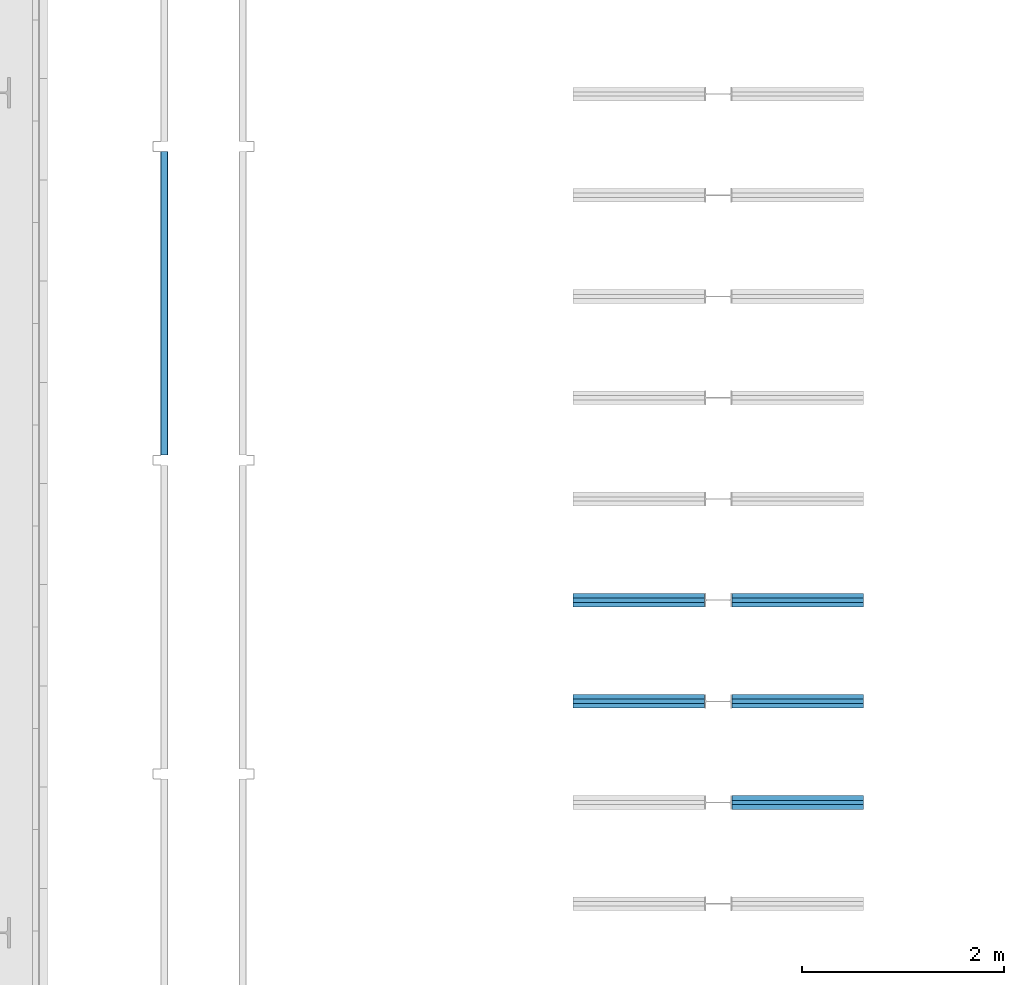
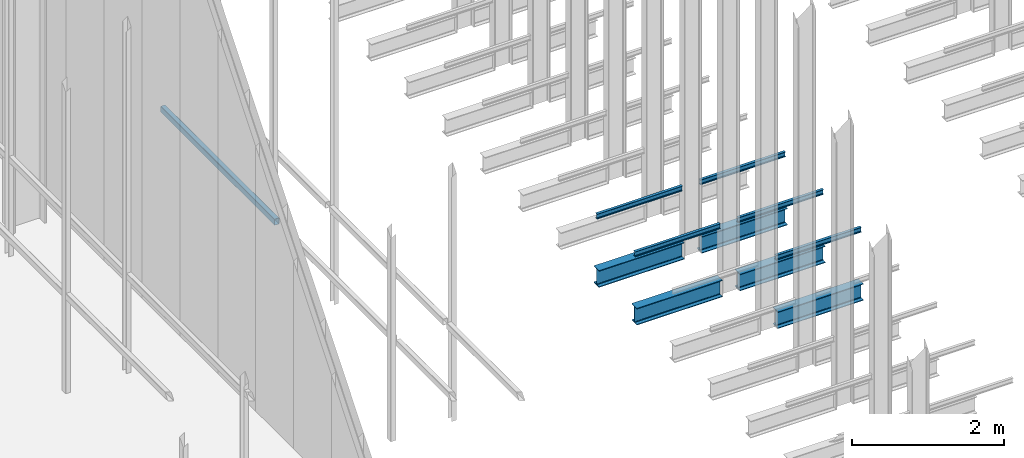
# One storey, part 166 of 302: 11 beams.
"""IFC2X3 building model written with IfcOpenShell, lengths in metres."""

from ifc_helpers import new_model, entity, si_unit, converted_unit, derived_unit, direction, frame, frame_2d, origin, place, context, subcontext, project, spatial, polyline, circle_curve, parameter, trimmed, segment, composite_curve, i_section, outline, extrude, material, type_object, element, save


model = new_model("IFC2X3")

# Units and contexts
model_context = context("Model", 3, precision=1e-05, world=origin(), true_north=direction((6.12303176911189e-17, 1.0)))
body_context = subcontext(model_context, "Body", "Model", "MODEL_VIEW")
ifc_project = project(units=[si_unit("LENGTHUNIT", "METRE"), si_unit("AREAUNIT", "SQUARE_METRE"), si_unit("VOLUMEUNIT", "CUBIC_METRE"), converted_unit("PLANEANGLEUNIT", "DEGREE", entity("IfcRatioMeasure", 0.0174532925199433), si_unit("PLANEANGLEUNIT", "RADIAN"), dimensions=[0, 0, 0, 0, 0, 0, 0]), si_unit("MASSUNIT", "GRAM", prefix="KILO"), derived_unit("MASSDENSITYUNIT", [(si_unit("MASSUNIT", "GRAM", prefix="KILO"), 1), (si_unit("LENGTHUNIT", "METRE"), -3)]), derived_unit("MOMENTOFINERTIAUNIT", [(si_unit("LENGTHUNIT", "METRE"), 4)]), si_unit("TIMEUNIT", "SECOND"), si_unit("FREQUENCYUNIT", "HERTZ"), si_unit("THERMODYNAMICTEMPERATUREUNIT", "DEGREE_CELSIUS"), derived_unit("THERMALTRANSMITTANCEUNIT", [(si_unit("MASSUNIT", "GRAM", prefix="KILO"), 1), (si_unit("THERMODYNAMICTEMPERATUREUNIT", "KELVIN"), -1), (si_unit("TIMEUNIT", "SECOND"), -3)]), derived_unit("VOLUMETRICFLOWRATEUNIT", [(si_unit("LENGTHUNIT", "METRE"), 3), (si_unit("TIMEUNIT", "SECOND"), -1)]), si_unit("ELECTRICCURRENTUNIT", "AMPERE"), si_unit("ELECTRICVOLTAGEUNIT", "VOLT"), si_unit("POWERUNIT", "WATT"), si_unit("FORCEUNIT", "NEWTON", prefix="KILO"), si_unit("ILLUMINANCEUNIT", "LUX"), si_unit("LUMINOUSFLUXUNIT", "LUMEN"), si_unit("LUMINOUSINTENSITYUNIT", "CANDELA"), derived_unit("USERDEFINED", [(si_unit("MASSUNIT", "GRAM", prefix="KILO"), -1), (si_unit("LENGTHUNIT", "METRE"), -2), (si_unit("TIMEUNIT", "SECOND"), 3), (si_unit("LUMINOUSFLUXUNIT", "LUMEN"), 1)]), derived_unit("LINEARVELOCITYUNIT", [(si_unit("LENGTHUNIT", "METRE"), 1), (si_unit("TIMEUNIT", "SECOND"), -1)]), si_unit("PRESSUREUNIT", "PASCAL"), derived_unit("USERDEFINED", [(si_unit("LENGTHUNIT", "METRE"), -2), (si_unit("MASSUNIT", "GRAM", prefix="KILO"), 1), (si_unit("TIMEUNIT", "SECOND"), -2)]), derived_unit("LINEARFORCEUNIT", [(si_unit("MASSUNIT", "GRAM", prefix="KILO"), 1), (si_unit("LENGTHUNIT", "METRE"), 1), (si_unit("TIMEUNIT", "SECOND"), -2), (si_unit("LENGTHUNIT", "METRE"), -1)]), derived_unit("PLANARFORCEUNIT", [(si_unit("MASSUNIT", "GRAM", prefix="KILO"), 1), (si_unit("LENGTHUNIT", "METRE"), 1), (si_unit("TIMEUNIT", "SECOND"), -2), (si_unit("LENGTHUNIT", "METRE"), -2)])], contexts=[model_context])

# Site, building, storey
site_placement = place(None, origin())
site = spatial("IfcSite", under=ifc_project, at=site_placement, Name="Default", CompositionType="ELEMENT")
building_placement = place(site_placement, origin())
building = spatial("IfcBuilding", under=site, at=building_placement, CompositionType="ELEMENT")
storey_placement = place(building_placement, frame((0.0, 0.0, -1.3)))
storey = spatial("IfcBuildingStorey", under=building, at=storey_placement, Name="00_EG", CompositionType="ELEMENT", Elevation=-1.3)

# Beams
ifc_material_1 = material(Name="Metall - Baustahl S235 blau")
beam_type_1 = type_object("IfcBeamType", Name="RHS Träger (EN 10219-2):RHS 100 x 75 x 5", PredefinedType="NOTDEFINED")
beam_1_placement = place(storey_placement, frame((-176.155111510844, 36.448088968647, 2.885), z_axis=(0.0, 0.0, 1.0), x_axis=(0.0, 1.0, 0.0)))
element("IfcBeam", 1, at=beam_1_placement, inside=storey, type_object=beam_type_1, material=ifc_material_1, Name="RHS Träger (EN 10219-2):RHS 100 x 75 x 5", ObjectType="RHS Träger (EN 10219-2):RHS 100 x 75 x 5", context=body_context, shape_type="SweptSolid", body=[
    extrude(outline(composite_curve([segment(polyline([(-0.0399999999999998, -0.0374999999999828), (0.0400000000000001, -0.0374999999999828)]), True, "CONTINUOUS"), segment(trimmed(circle_curve(frame_2d((0.0399999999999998, -0.0274999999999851), x_axis=(0.0, 1.0)), 0.01), [parameter(180.0)], [parameter(270.0)], True, "PARAMETER"), True, "CONTINUOUS"), segment(polyline([(0.05, -0.0274999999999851), (0.05, 0.0274999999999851)]), True, "CONTINUOUS"), segment(trimmed(circle_curve(frame_2d((0.0399999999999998, 0.0274999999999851), x_axis=(0.0, 1.0)), 0.01), [parameter(270.0)], [parameter(4.07110999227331e-13)], True, "PARAMETER"), True, "CONTINUOUS"), segment(polyline([(0.0400000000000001, 0.0375000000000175), (-0.0399999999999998, 0.0375000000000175)]), True, "CONTINUOUS"), segment(trimmed(circle_curve(frame_2d((-0.0400000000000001, 0.0274999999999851), x_axis=(0.0, 1.0)), 0.01), [parameter(360.0)], [parameter(90.0000000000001)], True, "PARAMETER"), True, "CONTINUOUS"), segment(polyline([(-0.05, 0.0274999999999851), (-0.05, -0.0274999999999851)]), True, "CONTINUOUS"), segment(trimmed(circle_curve(frame_2d((-0.0400000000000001, -0.0274999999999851), x_axis=(0.0, 1.0)), 0.01), [parameter(90.0000000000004)], [parameter(180.0)], True, "PARAMETER"), True, "CONTINUOUS")], self_intersect=False), holes=[composite_curve([segment(trimmed(circle_curve(frame_2d((-0.0400000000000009, 0.0274999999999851), x_axis=(0.0, 1.0)), 0.005), [parameter(360.0)], [parameter(89.9999999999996)], True, "PARAMETER"), False, "CONTINUOUS"), segment(polyline([(-0.0400000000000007, 0.0325000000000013), (0.0399999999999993, 0.0325000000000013)]), True, "CONTINUOUS"), segment(trimmed(circle_curve(frame_2d((0.039999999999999, 0.0274999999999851), x_axis=(0.0, 1.0)), 0.005), [parameter(270.0)], [parameter(0.0)], True, "PARAMETER"), False, "CONTINUOUS"), segment(polyline([(0.0449999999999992, 0.0274999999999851), (0.0449999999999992, -0.0274999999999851)]), True, "CONTINUOUS"), segment(trimmed(circle_curve(frame_2d((0.039999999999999, -0.0274999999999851), x_axis=(0.0, 1.0)), 0.005), [parameter(180.0)], [parameter(269.999999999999)], True, "PARAMETER"), False, "CONTINUOUS"), segment(polyline([(0.0399999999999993, -0.0325000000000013), (-0.0400000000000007, -0.0325000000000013)]), True, "CONTINUOUS"), segment(trimmed(circle_curve(frame_2d((-0.0400000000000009, -0.0274999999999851), x_axis=(0.0, 1.0)), 0.005), [parameter(90.0000000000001)], [parameter(180.0)], True, "PARAMETER"), False, "CONTINUOUS"), segment(polyline([(-0.0450000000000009, -0.0274999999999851), (-0.0450000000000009, 0.0274999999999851)]), True, "CONTINUOUS")], self_intersect=False)]), frame((9.99999999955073e-05, -0.0375000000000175, -0.0500000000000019), z_axis=(1.0, 0.0, 0.0), x_axis=(0.0, 0.0, -1.0)), (0.0, 0.0, 1.0), 2.9998),
])
ifc_material_2 = material(Name="Metall - Baustahl S235")
beam_type_2 = type_object("IfcBeamType", Name="IPN Träger:IPN 80", PredefinedType="NOTDEFINED")
beam_2_placement = place(storey_placement, frame((-170.510111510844, 34.994588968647, 2.42)))
element("IfcBeam", 2, at=beam_2_placement, inside=storey, type_object=beam_type_2, material=ifc_material_2, Name="IPN Träger:IPN 80", ObjectType="IPN Träger:IPN 80", context=body_context, shape_type="SweptSolid", body=[
    extrude(outline(composite_curve([segment(polyline([(0.0375704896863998, -0.0210000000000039), (0.0399999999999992, -0.0210000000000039)]), True, "CONTINUOUS"), segment(polyline([(0.0399999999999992, -0.0210000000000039), (0.0399999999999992, 0.0209999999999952)]), True, "CONTINUOUS"), segment(polyline([(0.039999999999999, 0.0209999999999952), (0.037570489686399, 0.0209999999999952)]), True, "CONTINUOUS"), segment(trimmed(circle_curve(frame_2d((0.037570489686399, 0.0186999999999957), x_axis=(0.0, 1.0)), 0.00230000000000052), [parameter(0.0)], [parameter(82.0299999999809)], True, "PARAMETER"), True, "CONTINUOUS"), segment(polyline([(0.0352927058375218, 0.0190189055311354), (0.0333732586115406, 0.00530924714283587)]), True, "CONTINUOUS"), segment(trimmed(circle_curve(frame_2d((0.0295109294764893, 0.00584999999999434), x_axis=(0.990340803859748, -0.138654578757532)), 0.00389999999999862), [parameter(277.969999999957)], [parameter(0.0)], True, "PARAMETER"), False, "CONTINUOUS"), segment(polyline([(0.0295109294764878, 0.00194999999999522), (-0.0295109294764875, 0.00194999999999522)]), True, "CONTINUOUS"), segment(trimmed(circle_curve(frame_2d((-0.029510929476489, 0.00584999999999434), x_axis=(0.0, -1.0)), 0.00389999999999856), [parameter(277.969999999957)], [parameter(0.0)], True, "PARAMETER"), False, "CONTINUOUS"), segment(polyline([(-0.0333732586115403, 0.0053092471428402), (-0.0352927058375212, 0.0190189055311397)]), True, "CONTINUOUS"), segment(trimmed(circle_curve(frame_2d((-0.0375704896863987, 0.0186999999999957), x_axis=(0.990340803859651, 0.138654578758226)), 0.00230000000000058), [parameter(0.0)], [parameter(82.029999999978)], True, "PARAMETER"), True, "CONTINUOUS"), segment(polyline([(-0.0375704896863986, 0.0209999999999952), (-0.0400000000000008, 0.0209999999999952)]), True, "CONTINUOUS"), segment(polyline([(-0.0400000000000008, 0.0209999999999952), (-0.0400000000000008, -0.0210000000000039)]), True, "CONTINUOUS"), segment(polyline([(-0.0400000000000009, -0.0210000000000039), (-0.037570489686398, -0.0210000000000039)]), True, "CONTINUOUS"), segment(trimmed(circle_curve(frame_2d((-0.0375704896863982, -0.0187000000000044), x_axis=(0.0, -1.0)), 0.00230000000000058), [parameter(0.0)], [parameter(82.029999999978)], True, "PARAMETER"), True, "CONTINUOUS"), segment(polyline([(-0.0352927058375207, -0.019018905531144), (-0.0333732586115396, -0.00530924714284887)]), True, "CONTINUOUS"), segment(trimmed(circle_curve(frame_2d((-0.0295109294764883, -0.005850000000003), x_axis=(-0.990340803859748, 0.138654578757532)), 0.00389999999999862), [parameter(277.969999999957)], [parameter(0.0)], True, "PARAMETER"), False, "CONTINUOUS"), segment(polyline([(-0.0295109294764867, -0.00195000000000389), (0.0295109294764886, -0.00195000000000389)]), True, "CONTINUOUS"), segment(trimmed(circle_curve(frame_2d((0.0295109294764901, -0.005850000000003), x_axis=(0.0, 1.0)), 0.00389999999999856), [parameter(277.969999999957)], [parameter(0.0)], True, "PARAMETER"), False, "CONTINUOUS"), segment(polyline([(0.0333732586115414, -0.00530924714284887), (0.0352927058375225, -0.0190189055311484)]), True, "CONTINUOUS"), segment(trimmed(circle_curve(frame_2d((0.0375704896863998, -0.0187000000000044), x_axis=(-0.990340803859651, -0.138654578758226)), 0.00230000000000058), [parameter(0.0)], [parameter(82.029999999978)], True, "PARAMETER"), True, "CONTINUOUS")], self_intersect=False)), frame((0.000100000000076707, 0.0210000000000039, -0.0400000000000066), z_axis=(1.0, 0.0, 0.0), x_axis=(0.0, 0.0, -1.0)), (0.0, 0.0, 1.0), 1.29990000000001),
])
beam_3_placement = place(storey_placement, frame((-170.780111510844, 35.036588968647, 2.42), z_axis=(0.0, 0.0, 1.0), x_axis=(-1.0, 0.0, 0.0)))
element("IfcBeam", 3, at=beam_3_placement, inside=storey, type_object=beam_type_2, material=ifc_material_2, Name="IPN Träger:IPN 80", ObjectType="IPN Träger:IPN 80", context=body_context, shape_type="SweptSolid", body=[
    extrude(outline(composite_curve([segment(polyline([(0.0375704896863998, -0.0209999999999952), (0.0399999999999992, -0.0209999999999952)]), True, "CONTINUOUS"), segment(polyline([(0.0399999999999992, -0.0209999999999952), (0.0399999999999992, 0.0210000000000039)]), True, "CONTINUOUS"), segment(polyline([(0.039999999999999, 0.0210000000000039), (0.037570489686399, 0.0210000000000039)]), True, "CONTINUOUS"), segment(trimmed(circle_curve(frame_2d((0.037570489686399, 0.0187000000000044), x_axis=(0.0, 1.0)), 0.00230000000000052), [parameter(0.0)], [parameter(82.0299999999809)], True, "PARAMETER"), True, "CONTINUOUS"), segment(polyline([(0.0352927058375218, 0.019018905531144), (0.0333732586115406, 0.00530924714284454)]), True, "CONTINUOUS"), segment(trimmed(circle_curve(frame_2d((0.0295109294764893, 0.005850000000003), x_axis=(0.990340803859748, -0.138654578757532)), 0.00389999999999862), [parameter(277.969999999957)], [parameter(0.0)], True, "PARAMETER"), False, "CONTINUOUS"), segment(polyline([(0.0295109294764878, 0.00195000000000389), (-0.0295109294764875, 0.00195000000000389)]), True, "CONTINUOUS"), segment(trimmed(circle_curve(frame_2d((-0.029510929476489, 0.005850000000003), x_axis=(0.0, -1.0)), 0.00389999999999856), [parameter(277.969999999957)], [parameter(0.0)], True, "PARAMETER"), False, "CONTINUOUS"), segment(polyline([(-0.0333732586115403, 0.00530924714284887), (-0.0352927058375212, 0.0190189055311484)]), True, "CONTINUOUS"), segment(trimmed(circle_curve(frame_2d((-0.0375704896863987, 0.0187000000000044), x_axis=(0.990340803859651, 0.138654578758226)), 0.00230000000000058), [parameter(0.0)], [parameter(82.029999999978)], True, "PARAMETER"), True, "CONTINUOUS"), segment(polyline([(-0.0375704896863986, 0.0210000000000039), (-0.0400000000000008, 0.0210000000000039)]), True, "CONTINUOUS"), segment(polyline([(-0.0400000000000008, 0.0210000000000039), (-0.0400000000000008, -0.0209999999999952)]), True, "CONTINUOUS"), segment(polyline([(-0.0400000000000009, -0.0209999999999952), (-0.037570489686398, -0.0209999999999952)]), True, "CONTINUOUS"), segment(trimmed(circle_curve(frame_2d((-0.0375704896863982, -0.0186999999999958), x_axis=(0.0, -1.0)), 0.00230000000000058), [parameter(0.0)], [parameter(82.029999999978)], True, "PARAMETER"), True, "CONTINUOUS"), segment(polyline([(-0.0352927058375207, -0.0190189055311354), (-0.0333732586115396, -0.00530924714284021)]), True, "CONTINUOUS"), segment(trimmed(circle_curve(frame_2d((-0.0295109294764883, -0.00584999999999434), x_axis=(-0.990340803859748, 0.138654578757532)), 0.00389999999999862), [parameter(277.969999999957)], [parameter(0.0)], True, "PARAMETER"), False, "CONTINUOUS"), segment(polyline([(-0.0295109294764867, -0.00194999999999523), (0.0295109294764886, -0.00194999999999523)]), True, "CONTINUOUS"), segment(trimmed(circle_curve(frame_2d((0.0295109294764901, -0.00584999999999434), x_axis=(0.0, 1.0)), 0.00389999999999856), [parameter(277.969999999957)], [parameter(0.0)], True, "PARAMETER"), False, "CONTINUOUS"), segment(polyline([(0.0333732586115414, -0.00530924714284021), (0.0352927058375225, -0.0190189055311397)]), True, "CONTINUOUS"), segment(trimmed(circle_curve(frame_2d((0.0375704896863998, -0.0186999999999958), x_axis=(-0.990340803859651, -0.138654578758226)), 0.00230000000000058), [parameter(0.0)], [parameter(82.029999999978)], True, "PARAMETER"), True, "CONTINUOUS")], self_intersect=False)), frame((0.000100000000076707, 0.0209999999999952, -0.0400000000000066), z_axis=(1.0, 0.0, 0.0), x_axis=(0.0, 0.0, -1.0)), (0.0, 0.0, 1.0), 1.29990000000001),
])
beam_4_placement = place(storey_placement, frame((-170.510111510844, 33.994588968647, 2.42)))
element("IfcBeam", 4, at=beam_4_placement, inside=storey, type_object=beam_type_2, material=ifc_material_2, Name="IPN Träger:IPN 80", ObjectType="IPN Träger:IPN 80", context=body_context, shape_type="SweptSolid", body=[
    extrude(outline(composite_curve([segment(polyline([(0.0375704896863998, -0.0209999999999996), (0.0399999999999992, -0.0209999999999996)]), True, "CONTINUOUS"), segment(polyline([(0.0399999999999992, -0.0209999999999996), (0.0399999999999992, 0.0209999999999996)]), True, "CONTINUOUS"), segment(polyline([(0.039999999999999, 0.0209999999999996), (0.037570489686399, 0.0209999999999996)]), True, "CONTINUOUS"), segment(trimmed(circle_curve(frame_2d((0.037570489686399, 0.0187000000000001), x_axis=(0.0, 1.0)), 0.00230000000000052), [parameter(0.0)], [parameter(82.0299999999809)], True, "PARAMETER"), True, "CONTINUOUS"), segment(polyline([(0.0352927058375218, 0.0190189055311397), (0.0333732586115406, 0.00530924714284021)]), True, "CONTINUOUS"), segment(trimmed(circle_curve(frame_2d((0.0295109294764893, 0.00584999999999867), x_axis=(0.990340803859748, -0.138654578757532)), 0.00389999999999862), [parameter(277.969999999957)], [parameter(0.0)], True, "PARAMETER"), False, "CONTINUOUS"), segment(polyline([(0.0295109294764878, 0.00194999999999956), (-0.0295109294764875, 0.00194999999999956)]), True, "CONTINUOUS"), segment(trimmed(circle_curve(frame_2d((-0.029510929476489, 0.00584999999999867), x_axis=(0.0, -1.0)), 0.00389999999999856), [parameter(277.969999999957)], [parameter(0.0)], True, "PARAMETER"), False, "CONTINUOUS"), segment(polyline([(-0.0333732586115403, 0.00530924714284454), (-0.0352927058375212, 0.019018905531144)]), True, "CONTINUOUS"), segment(trimmed(circle_curve(frame_2d((-0.0375704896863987, 0.0187000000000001), x_axis=(0.990340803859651, 0.138654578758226)), 0.00230000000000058), [parameter(0.0)], [parameter(82.029999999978)], True, "PARAMETER"), True, "CONTINUOUS"), segment(polyline([(-0.0375704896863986, 0.0209999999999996), (-0.0400000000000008, 0.0209999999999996)]), True, "CONTINUOUS"), segment(polyline([(-0.0400000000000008, 0.0209999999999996), (-0.0400000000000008, -0.0209999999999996)]), True, "CONTINUOUS"), segment(polyline([(-0.0400000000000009, -0.0209999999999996), (-0.037570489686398, -0.0209999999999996)]), True, "CONTINUOUS"), segment(trimmed(circle_curve(frame_2d((-0.0375704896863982, -0.0187000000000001), x_axis=(0.0, -1.0)), 0.00230000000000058), [parameter(0.0)], [parameter(82.029999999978)], True, "PARAMETER"), True, "CONTINUOUS"), segment(polyline([(-0.0352927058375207, -0.0190189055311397), (-0.0333732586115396, -0.00530924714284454)]), True, "CONTINUOUS"), segment(trimmed(circle_curve(frame_2d((-0.0295109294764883, -0.00584999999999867), x_axis=(-0.990340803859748, 0.138654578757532)), 0.00389999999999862), [parameter(277.969999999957)], [parameter(0.0)], True, "PARAMETER"), False, "CONTINUOUS"), segment(polyline([(-0.0295109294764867, -0.00194999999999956), (0.0295109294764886, -0.00194999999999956)]), True, "CONTINUOUS"), segment(trimmed(circle_curve(frame_2d((0.0295109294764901, -0.00584999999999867), x_axis=(0.0, 1.0)), 0.00389999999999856), [parameter(277.969999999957)], [parameter(0.0)], True, "PARAMETER"), False, "CONTINUOUS"), segment(polyline([(0.0333732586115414, -0.00530924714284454), (0.0352927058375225, -0.019018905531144)]), True, "CONTINUOUS"), segment(trimmed(circle_curve(frame_2d((0.0375704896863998, -0.0187000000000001), x_axis=(-0.990340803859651, -0.138654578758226)), 0.00230000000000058), [parameter(0.0)], [parameter(82.029999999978)], True, "PARAMETER"), True, "CONTINUOUS")], self_intersect=False)), frame((0.000100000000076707, 0.0209999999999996, -0.0400000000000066), z_axis=(1.0, 0.0, 0.0), x_axis=(0.0, 0.0, -1.0)), (0.0, 0.0, 1.0), 1.29990000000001),
])
beam_5_placement = place(storey_placement, frame((-170.780111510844, 34.036588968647, 2.42), z_axis=(0.0, 0.0, 1.0), x_axis=(-1.0, 0.0, 0.0)))
element("IfcBeam", 5, at=beam_5_placement, inside=storey, type_object=beam_type_2, material=ifc_material_2, Name="IPN Träger:IPN 80", ObjectType="IPN Träger:IPN 80", context=body_context, shape_type="SweptSolid", body=[
    extrude(outline(composite_curve([segment(polyline([(0.0375704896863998, -0.0209999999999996), (0.0399999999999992, -0.0209999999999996)]), True, "CONTINUOUS"), segment(polyline([(0.0399999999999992, -0.0209999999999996), (0.0399999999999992, 0.0209999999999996)]), True, "CONTINUOUS"), segment(polyline([(0.039999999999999, 0.0209999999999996), (0.037570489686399, 0.0209999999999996)]), True, "CONTINUOUS"), segment(trimmed(circle_curve(frame_2d((0.037570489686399, 0.0187000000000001), x_axis=(0.0, 1.0)), 0.00230000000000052), [parameter(0.0)], [parameter(82.0299999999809)], True, "PARAMETER"), True, "CONTINUOUS"), segment(polyline([(0.0352927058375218, 0.0190189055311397), (0.0333732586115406, 0.00530924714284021)]), True, "CONTINUOUS"), segment(trimmed(circle_curve(frame_2d((0.0295109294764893, 0.00584999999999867), x_axis=(0.990340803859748, -0.138654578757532)), 0.00389999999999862), [parameter(277.969999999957)], [parameter(0.0)], True, "PARAMETER"), False, "CONTINUOUS"), segment(polyline([(0.0295109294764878, 0.00194999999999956), (-0.0295109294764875, 0.00194999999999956)]), True, "CONTINUOUS"), segment(trimmed(circle_curve(frame_2d((-0.029510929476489, 0.00584999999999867), x_axis=(0.0, -1.0)), 0.00389999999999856), [parameter(277.969999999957)], [parameter(0.0)], True, "PARAMETER"), False, "CONTINUOUS"), segment(polyline([(-0.0333732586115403, 0.00530924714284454), (-0.0352927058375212, 0.019018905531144)]), True, "CONTINUOUS"), segment(trimmed(circle_curve(frame_2d((-0.0375704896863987, 0.0187000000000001), x_axis=(0.990340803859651, 0.138654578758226)), 0.00230000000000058), [parameter(0.0)], [parameter(82.029999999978)], True, "PARAMETER"), True, "CONTINUOUS"), segment(polyline([(-0.0375704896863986, 0.0209999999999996), (-0.0400000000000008, 0.0209999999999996)]), True, "CONTINUOUS"), segment(polyline([(-0.0400000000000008, 0.0209999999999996), (-0.0400000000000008, -0.0209999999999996)]), True, "CONTINUOUS"), segment(polyline([(-0.0400000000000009, -0.0209999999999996), (-0.037570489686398, -0.0209999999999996)]), True, "CONTINUOUS"), segment(trimmed(circle_curve(frame_2d((-0.0375704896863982, -0.0187000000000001), x_axis=(0.0, -1.0)), 0.00230000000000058), [parameter(0.0)], [parameter(82.029999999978)], True, "PARAMETER"), True, "CONTINUOUS"), segment(polyline([(-0.0352927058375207, -0.0190189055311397), (-0.0333732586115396, -0.00530924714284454)]), True, "CONTINUOUS"), segment(trimmed(circle_curve(frame_2d((-0.0295109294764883, -0.00584999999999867), x_axis=(-0.990340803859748, 0.138654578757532)), 0.00389999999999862), [parameter(277.969999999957)], [parameter(0.0)], True, "PARAMETER"), False, "CONTINUOUS"), segment(polyline([(-0.0295109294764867, -0.00194999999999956), (0.0295109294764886, -0.00194999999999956)]), True, "CONTINUOUS"), segment(trimmed(circle_curve(frame_2d((0.0295109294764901, -0.00584999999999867), x_axis=(0.0, 1.0)), 0.00389999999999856), [parameter(277.969999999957)], [parameter(0.0)], True, "PARAMETER"), False, "CONTINUOUS"), segment(polyline([(0.0333732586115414, -0.00530924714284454), (0.0352927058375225, -0.019018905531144)]), True, "CONTINUOUS"), segment(trimmed(circle_curve(frame_2d((0.0375704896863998, -0.0187000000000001), x_axis=(-0.990340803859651, -0.138654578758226)), 0.00230000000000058), [parameter(0.0)], [parameter(82.029999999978)], True, "PARAMETER"), True, "CONTINUOUS")], self_intersect=False)), frame((0.000100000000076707, 0.0209999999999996, -0.0400000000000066), z_axis=(1.0, 0.0, 0.0), x_axis=(0.0, 0.0, -1.0)), (0.0, 0.0, 1.0), 1.29990000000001),
])
beam_6_placement = place(storey_placement, frame((-170.510111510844, 32.994588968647, 2.42)))
element("IfcBeam", 6, at=beam_6_placement, inside=storey, type_object=beam_type_2, material=ifc_material_2, Name="IPN Träger:IPN 80", ObjectType="IPN Träger:IPN 80", context=body_context, shape_type="SweptSolid", body=[
    extrude(outline(composite_curve([segment(polyline([(0.0375704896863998, -0.0210000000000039), (0.0399999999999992, -0.0210000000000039)]), True, "CONTINUOUS"), segment(polyline([(0.0399999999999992, -0.0210000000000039), (0.0399999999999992, 0.0209999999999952)]), True, "CONTINUOUS"), segment(polyline([(0.039999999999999, 0.0209999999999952), (0.037570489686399, 0.0209999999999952)]), True, "CONTINUOUS"), segment(trimmed(circle_curve(frame_2d((0.037570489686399, 0.0186999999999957), x_axis=(0.0, 1.0)), 0.00230000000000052), [parameter(0.0)], [parameter(82.0299999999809)], True, "PARAMETER"), True, "CONTINUOUS"), segment(polyline([(0.0352927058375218, 0.0190189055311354), (0.0333732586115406, 0.00530924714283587)]), True, "CONTINUOUS"), segment(trimmed(circle_curve(frame_2d((0.0295109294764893, 0.00584999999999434), x_axis=(0.990340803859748, -0.138654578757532)), 0.00389999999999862), [parameter(277.969999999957)], [parameter(0.0)], True, "PARAMETER"), False, "CONTINUOUS"), segment(polyline([(0.0295109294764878, 0.00194999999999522), (-0.0295109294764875, 0.00194999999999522)]), True, "CONTINUOUS"), segment(trimmed(circle_curve(frame_2d((-0.029510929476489, 0.00584999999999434), x_axis=(0.0, -1.0)), 0.00389999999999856), [parameter(277.969999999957)], [parameter(0.0)], True, "PARAMETER"), False, "CONTINUOUS"), segment(polyline([(-0.0333732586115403, 0.0053092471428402), (-0.0352927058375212, 0.0190189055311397)]), True, "CONTINUOUS"), segment(trimmed(circle_curve(frame_2d((-0.0375704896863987, 0.0186999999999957), x_axis=(0.990340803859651, 0.138654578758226)), 0.00230000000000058), [parameter(0.0)], [parameter(82.029999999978)], True, "PARAMETER"), True, "CONTINUOUS"), segment(polyline([(-0.0375704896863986, 0.0209999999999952), (-0.0400000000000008, 0.0209999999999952)]), True, "CONTINUOUS"), segment(polyline([(-0.0400000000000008, 0.0209999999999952), (-0.0400000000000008, -0.0210000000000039)]), True, "CONTINUOUS"), segment(polyline([(-0.0400000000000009, -0.0210000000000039), (-0.037570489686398, -0.0210000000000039)]), True, "CONTINUOUS"), segment(trimmed(circle_curve(frame_2d((-0.0375704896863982, -0.0187000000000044), x_axis=(0.0, -1.0)), 0.00230000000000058), [parameter(0.0)], [parameter(82.029999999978)], True, "PARAMETER"), True, "CONTINUOUS"), segment(polyline([(-0.0352927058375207, -0.019018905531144), (-0.0333732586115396, -0.00530924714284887)]), True, "CONTINUOUS"), segment(trimmed(circle_curve(frame_2d((-0.0295109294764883, -0.005850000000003), x_axis=(-0.990340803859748, 0.138654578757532)), 0.00389999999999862), [parameter(277.969999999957)], [parameter(0.0)], True, "PARAMETER"), False, "CONTINUOUS"), segment(polyline([(-0.0295109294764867, -0.00195000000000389), (0.0295109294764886, -0.00195000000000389)]), True, "CONTINUOUS"), segment(trimmed(circle_curve(frame_2d((0.0295109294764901, -0.005850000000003), x_axis=(0.0, 1.0)), 0.00389999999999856), [parameter(277.969999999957)], [parameter(0.0)], True, "PARAMETER"), False, "CONTINUOUS"), segment(polyline([(0.0333732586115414, -0.00530924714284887), (0.0352927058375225, -0.0190189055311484)]), True, "CONTINUOUS"), segment(trimmed(circle_curve(frame_2d((0.0375704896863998, -0.0187000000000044), x_axis=(-0.990340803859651, -0.138654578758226)), 0.00230000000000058), [parameter(0.0)], [parameter(82.029999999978)], True, "PARAMETER"), True, "CONTINUOUS")], self_intersect=False)), frame((0.000100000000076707, 0.0210000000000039, -0.0400000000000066), z_axis=(1.0, 0.0, 0.0), x_axis=(0.0, 0.0, -1.0)), (0.0, 0.0, 1.0), 1.29990000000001),
])
beam_type_3 = type_object("IfcBeamType", Name="IPE Träger:IPE 270", PredefinedType="NOTDEFINED")
beam_7_placement = place(storey_placement, frame((-170.510111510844, 33.083088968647, 1.54000000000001)))
element("IfcBeam", 7, at=beam_7_placement, inside=storey, type_object=beam_type_3, material=ifc_material_2, Name="IPE Träger:IPE 270", ObjectType="IPE Träger:IPE 270", context=body_context, shape_type="SweptSolid", body=[
    extrude(i_section(OverallWidth=0.134999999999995, OverallDepth=0.27, WebThickness=0.00660000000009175, FlangeThickness=0.0102000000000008, FilletRadius=0.0150000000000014, at=frame_2d((5.96744875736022e-16, 1.08246744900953e-14), x_axis=(0.0, 1.0))), frame((0.000100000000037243, -0.0675000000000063, -0.135000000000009), z_axis=(1.0, 0.0, 0.0), x_axis=(0.0, 0.0, -1.0)), (0.0, 0.0, 1.0), 1.29990000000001),
])
beam_8_placement = place(storey_placement, frame((-170.780111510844, 34.083088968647, 1.54000000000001), z_axis=(0.0, 0.0, 1.0), x_axis=(-1.0, 0.0, 0.0)))
element("IfcBeam", 8, at=beam_8_placement, inside=storey, type_object=beam_type_3, material=ifc_material_2, Name="IPE Träger:IPE 270", ObjectType="IPE Träger:IPE 270", context=body_context, shape_type="SweptSolid", body=[
    extrude(i_section(OverallWidth=0.134999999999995, OverallDepth=0.27, WebThickness=0.00660000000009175, FlangeThickness=0.0102000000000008, FilletRadius=0.0150000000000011, at=frame_2d((5.96744875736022e-16, 2.16493489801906e-15), x_axis=(0.0, 1.0))), frame((0.000100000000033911, 0.0674999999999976, -0.135000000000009), z_axis=(1.0, 0.0, 0.0), x_axis=(0.0, 0.0, -1.0)), (0.0, 0.0, 1.0), 1.29990000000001),
])
beam_9_placement = place(storey_placement, frame((-170.510111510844, 34.083088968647, 1.54000000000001)))
element("IfcBeam", 9, at=beam_9_placement, inside=storey, type_object=beam_type_3, material=ifc_material_2, Name="IPE Träger:IPE 270", ObjectType="IPE Träger:IPE 270", context=body_context, shape_type="SweptSolid", body=[
    extrude(i_section(OverallWidth=0.134999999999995, OverallDepth=0.27, WebThickness=0.00660000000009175, FlangeThickness=0.0102000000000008, FilletRadius=0.0150000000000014, at=frame_2d((5.96744875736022e-16, 2.16493489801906e-15), x_axis=(0.0, 1.0))), frame((0.000100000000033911, -0.0674999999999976, -0.135000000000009), z_axis=(1.0, 0.0, 0.0), x_axis=(0.0, 0.0, -1.0)), (0.0, 0.0, 1.0), 1.29990000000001),
])
beam_10_placement = place(storey_placement, frame((-170.780111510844, 35.083088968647, 1.54000000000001), z_axis=(0.0, 0.0, 1.0), x_axis=(-1.0, 0.0, 0.0)))
element("IfcBeam", 10, at=beam_10_placement, inside=storey, type_object=beam_type_3, material=ifc_material_2, Name="IPE Träger:IPE 270", ObjectType="IPE Träger:IPE 270", context=body_context, shape_type="SweptSolid", body=[
    extrude(i_section(OverallWidth=0.134999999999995, OverallDepth=0.27, WebThickness=0.00660000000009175, FlangeThickness=0.0102000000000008, FilletRadius=0.0150000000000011, at=frame_2d((5.96744875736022e-16, 2.16493489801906e-15), x_axis=(0.0, 1.0))), frame((0.000100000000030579, 0.0674999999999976, -0.135000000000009), z_axis=(1.0, 0.0, 0.0), x_axis=(0.0, 0.0, -1.0)), (0.0, 0.0, 1.0), 1.29990000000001),
])
beam_11_placement = place(storey_placement, frame((-170.510111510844, 35.083088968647, 1.54000000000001)))
element("IfcBeam", 11, at=beam_11_placement, inside=storey, type_object=beam_type_3, material=ifc_material_2, Name="IPE Träger:IPE 270", ObjectType="IPE Träger:IPE 270", context=body_context, shape_type="SweptSolid", body=[
    extrude(i_section(OverallWidth=0.134999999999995, OverallDepth=0.27, WebThickness=0.00660000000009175, FlangeThickness=0.0102000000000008, FilletRadius=0.0150000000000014, at=frame_2d((5.96744875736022e-16, -2.16493489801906e-15), x_axis=(0.0, 1.0))), frame((0.000100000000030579, -0.0674999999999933, -0.135000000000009), z_axis=(1.0, 0.0, 0.0), x_axis=(0.0, 0.0, -1.0)), (0.0, 0.0, 1.0), 1.29990000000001),
])

save(model, "model.ifc")
